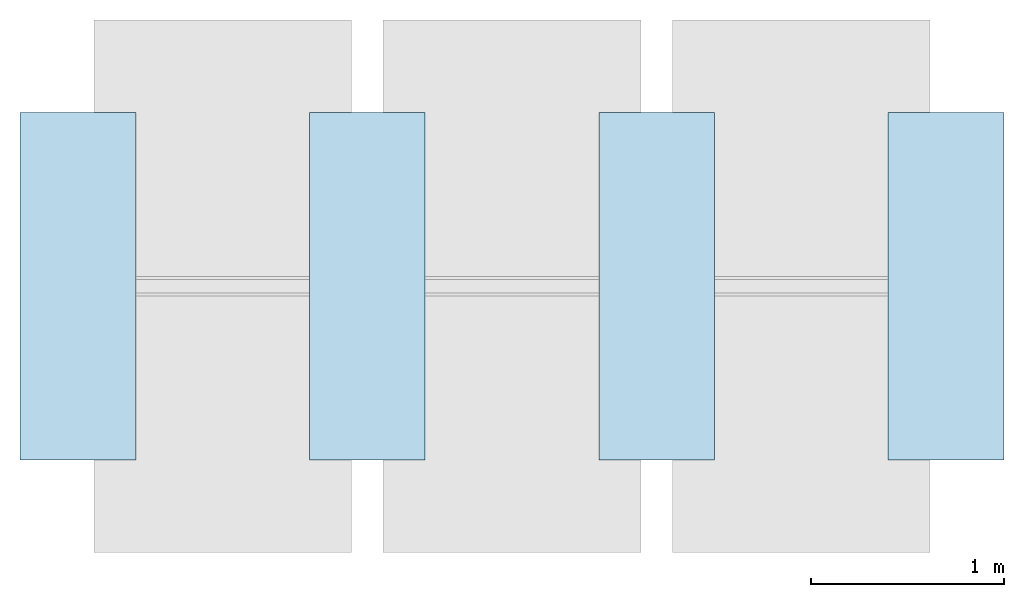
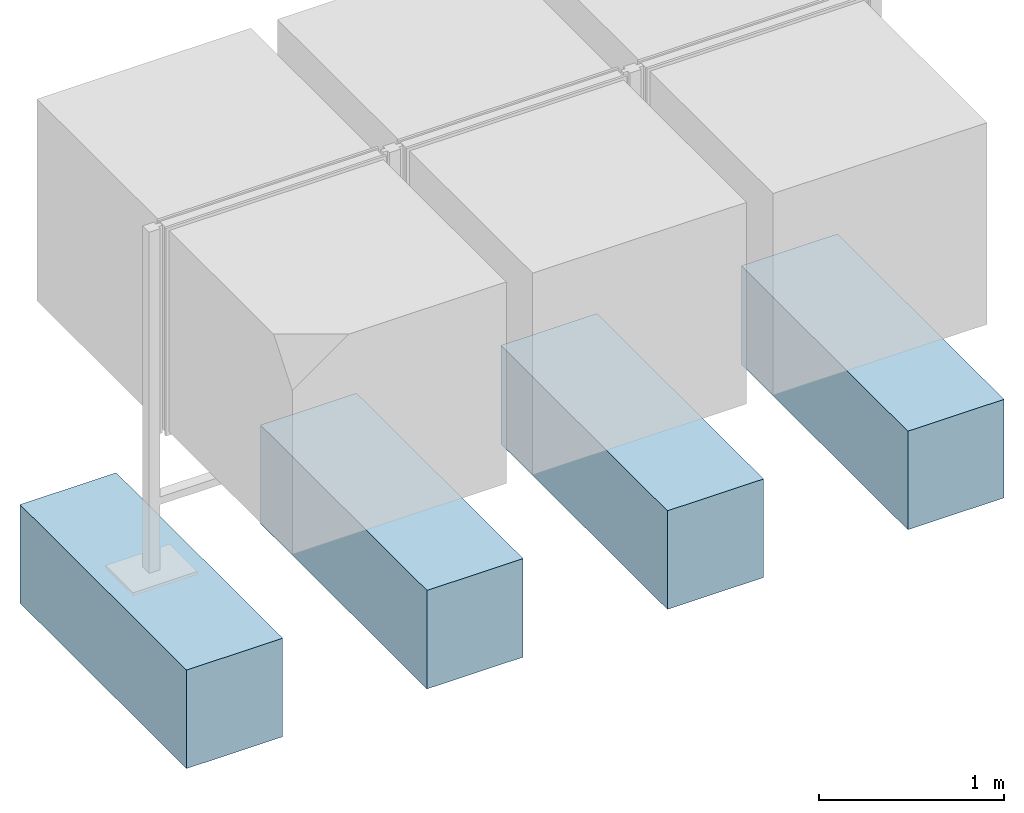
# One storey, incomplete: 4 slabs.
"""IFC4 building model written with IfcOpenShell, lengths in metres."""

from ifc_helpers import new_model, entity, si_unit, converted_unit, direction, frame, frame_2d, origin, origin_2d_with_axis, place, context, subcontext, project, spatial, rectangle, extrude, material, type_object, element, save


model = new_model("IFC4")

# Units and contexts
model_context = context("Model", 3, precision=1e-05, world=origin(), true_north=direction((6.123031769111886e-17, 1.0)))
body_context = subcontext(model_context, "Body", "Model", "MODEL_VIEW")
ifc_project = project(units=[si_unit("LENGTHUNIT", "METRE"), converted_unit("PLANEANGLEUNIT", "DEGREE", entity("IfcPlaneAngleMeasure", 0.017453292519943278), si_unit("PLANEANGLEUNIT", "RADIAN"), dimensions=[0, 0, 0, 0, 0, 0, 0]), si_unit("AREAUNIT", "SQUARE_METRE")], contexts=[model_context])

# Site, building, storey
site_placement = place(None, origin())
site = spatial("IfcSite", under=ifc_project, at=site_placement, Name="Default", CompositionType="ELEMENT")
building_placement = place(site_placement, origin())
building = spatial("IfcBuilding", under=site, at=building_placement, CompositionType="ELEMENT")
storey_placement = place(building_placement, origin())
storey = spatial("IfcBuildingStorey", under=building, at=storey_placement, Name="DB_Bezugshoehe_max_Bahnsteigkante", CompositionType="ELEMENT", Elevation=0.0)

# Slabs
ifc_material = material(Name="DB_Ortbeton", Category="DB_Beton")
slab_type = type_object("IfcSlabType", Name="DB_Vitrine_Fundament:DB_Vitrine_Fundament", PredefinedType="BASESLAB", material=ifc_material)
slab_1_placement = place(storey_placement, origin())
element("IfcSlab", 1, at=slab_1_placement, inside=storey, type_object=slab_type, Name="DB_Vitrine_Fundament:DB_Vitrine_Fundament", ObjectType="DB_Vitrine_Fundament:DB_Vitrine_Fundament", PredefinedType="BASESLAB", context=body_context, shape_type="SweptSolid", body=[
    extrude(rectangle(XDim=1.8, YDim=0.5999999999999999, at=origin_2d_with_axis()), frame((0.0, 0.0, 0.04999999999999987), z_axis=(0.0, 0.0, 1.0), x_axis=(0.0, 1.0, 0.0)), (0.0, 0.0, 1.0), 0.5999999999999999),
    extrude(rectangle(XDim=0.5999999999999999, YDim=1.7999999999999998, at=origin_2d_with_axis()), frame((0.0, 0.0, 0.0), z_axis=(0.0, 0.0, 1.0), x_axis=(-1.0, 0.0, 0.0)), (0.0, 0.0, 1.0), 0.04999999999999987),
])
slab_2_placement = place(storey_placement, origin())
element("IfcSlab", 2, at=slab_2_placement, inside=storey, type_object=slab_type, Name="DB_Vitrine_Fundament:DB_Vitrine_Fundament", ObjectType="DB_Vitrine_Fundament:DB_Vitrine_Fundament", PredefinedType="BASESLAB", context=body_context, shape_type="SweptSolid", body=[
    extrude(rectangle(XDim=1.8, YDim=0.5999999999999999, at=frame_2d((0.0, -8.326672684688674e-17), x_axis=(1.0, 0.0))), frame((1.500000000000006, 0.0, 0.04999999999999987), z_axis=(0.0, 0.0, 1.0), x_axis=(0.0, 1.0, 0.0)), (0.0, 0.0, 1.0), 0.5999999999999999),
    extrude(rectangle(XDim=0.6000000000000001, YDim=1.7999999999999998, at=origin_2d_with_axis()), frame((1.500000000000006, 0.0, 0.0), z_axis=(0.0, 0.0, 1.0), x_axis=(-1.0, 0.0, 0.0)), (0.0, 0.0, 1.0), 0.04999999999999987),
])
slab_3_placement = place(storey_placement, origin())
element("IfcSlab", 3, at=slab_3_placement, inside=storey, type_object=slab_type, Name="DB_Vitrine_Fundament:DB_Vitrine_Fundament", ObjectType="DB_Vitrine_Fundament:DB_Vitrine_Fundament", PredefinedType="BASESLAB", context=body_context, shape_type="SweptSolid", body=[
    extrude(rectangle(XDim=1.8, YDim=0.6000000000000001, at=origin_2d_with_axis()), frame((3.0, 0.0, 0.04999999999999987), z_axis=(0.0, 0.0, 1.0), x_axis=(0.0, 1.0, 0.0)), (0.0, 0.0, 1.0), 0.5999999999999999),
    extrude(rectangle(XDim=0.6000000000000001, YDim=1.7999999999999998, at=origin_2d_with_axis()), frame((3.0, 0.0, 0.0), z_axis=(0.0, 0.0, 1.0), x_axis=(-1.0, 0.0, 0.0)), (0.0, 0.0, 1.0), 0.04999999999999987),
])
slab_4_placement = place(storey_placement, origin())
element("IfcSlab", 4, at=slab_4_placement, inside=storey, type_object=slab_type, Name="DB_Vitrine_Fundament:DB_Vitrine_Fundament", ObjectType="DB_Vitrine_Fundament:DB_Vitrine_Fundament", PredefinedType="BASESLAB", context=body_context, shape_type="SweptSolid", body=[
    extrude(rectangle(XDim=1.8, YDim=0.6000000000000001, at=origin_2d_with_axis()), frame((4.500000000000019, 0.0, 0.04999999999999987), z_axis=(0.0, 0.0, 1.0), x_axis=(0.0, 1.0, 0.0)), (0.0, 0.0, 1.0), 0.5999999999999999),
    extrude(rectangle(XDim=0.6000000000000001, YDim=1.7999999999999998, at=origin_2d_with_axis()), frame((4.500000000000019, 0.0, 0.0), z_axis=(0.0, 0.0, 1.0), x_axis=(-1.0, 0.0, 0.0)), (0.0, 0.0, 1.0), 0.04999999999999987),
])

save(model, "model.ifc")
